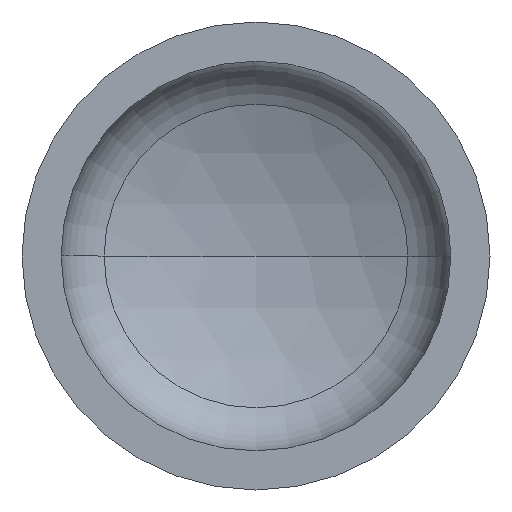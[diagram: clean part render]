
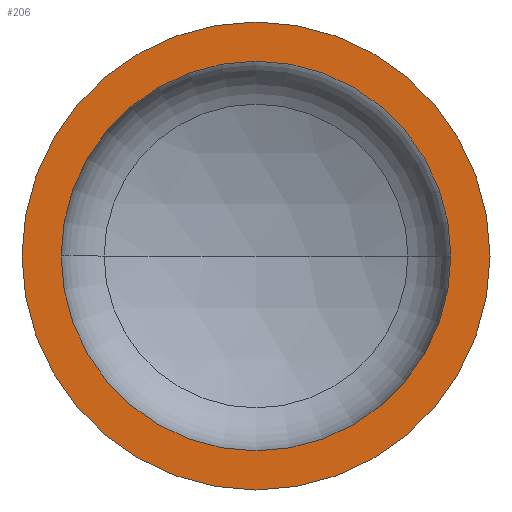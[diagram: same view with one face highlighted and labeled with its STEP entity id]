
A CAD part, front view. The second image highlights one B-rep face of the part: STEP entity #206.
In plain terms, the highlighted planar face has unit normal (0, -1, 0).
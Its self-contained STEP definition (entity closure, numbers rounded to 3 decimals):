
#18 = AXIS2_PLACEMENT_3D ( 'NONE', #102, #340, #199 ) ;
#30 = VERTEX_POINT ( 'NONE', #298 ) ;
#39 = ORIENTED_EDGE ( 'NONE', *, *, #382, .F. ) ;
#47 = AXIS2_PLACEMENT_3D ( 'NONE', #292, #296, #276 ) ;
#52 = AXIS2_PLACEMENT_3D ( 'NONE', #192, #191, #189 ) ;
#66 = EDGE_CURVE ( 'NONE', #30, #74, #267, .T. ) ;
#72 = EDGE_CURVE ( 'NONE', #133, #89, #390, .T. ) ;
#74 = VERTEX_POINT ( 'NONE', #181 ) ;
#86 = ORIENTED_EDGE ( 'NONE', *, *, #72, .F. ) ;
#89 = VERTEX_POINT ( 'NONE', #279 ) ;
#90 = ORIENTED_EDGE ( 'NONE', *, *, #66, .T. ) ;
#102 = CARTESIAN_POINT ( 'NONE',  ( -550., 0., 0. ) ) ;
#113 = EDGE_LOOP ( 'NONE', ( #147, #90 ) ) ;
#133 = VERTEX_POINT ( 'NONE', #151 ) ;
#135 = EDGE_LOOP ( 'NONE', ( #86, #39 ) ) ;
#147 = ORIENTED_EDGE ( 'NONE', *, *, #388, .T. ) ;
#151 = CARTESIAN_POINT ( 'NONE',  ( 458., 0., 0. ) ) ;
#158 = CARTESIAN_POINT ( 'NONE',  ( 0., 0., 0. ) ) ;
#181 = CARTESIAN_POINT ( 'NONE',  ( 550., 0., 0. ) ) ;
#182 = DIRECTION ( 'NONE',  ( 1., 0., 0. ) ) ;
#189 = DIRECTION ( 'NONE',  ( 1., 0., 0. ) ) ;
#191 = DIRECTION ( 'NONE',  ( 0., -1., 0. ) ) ;
#192 = CARTESIAN_POINT ( 'NONE',  ( 0., 0., 0. ) ) ;
#199 = DIRECTION ( 'NONE',  ( -1., 0., 0. ) ) ;
#204 = CIRCLE ( 'NONE', #379, 458. ) ;
#206 = ADVANCED_FACE ( 'NONE', ( #313, #308 ), #318, .F. ) ;
#228 = DIRECTION ( 'NONE',  ( 0., -1., 0. ) ) ;
#267 = CIRCLE ( 'NONE', #52, 550. ) ;
#276 = DIRECTION ( 'NONE',  ( 1., 0., 0. ) ) ;
#279 = CARTESIAN_POINT ( 'NONE',  ( -458., 0., 0. ) ) ;
#292 = CARTESIAN_POINT ( 'NONE',  ( 0., 0., 0. ) ) ;
#296 = DIRECTION ( 'NONE',  ( 0., -1., 0. ) ) ;
#298 = CARTESIAN_POINT ( 'NONE',  ( -550., 0., 0. ) ) ;
#308 = FACE_OUTER_BOUND ( 'NONE', #113, .T. ) ;
#313 = FACE_BOUND ( 'NONE', #135, .T. ) ;
#318 = PLANE ( 'NONE',  #18 ) ;
#324 = DIRECTION ( 'NONE',  ( 0., -1., 0. ) ) ;
#332 = CIRCLE ( 'NONE', #363, 550. ) ;
#340 = DIRECTION ( 'NONE',  ( 0., 1., 0. ) ) ;
#363 = AXIS2_PLACEMENT_3D ( 'NONE', #373, #228, #394 ) ;
#373 = CARTESIAN_POINT ( 'NONE',  ( 0., 0., 0. ) ) ;
#379 = AXIS2_PLACEMENT_3D ( 'NONE', #158, #324, #182 ) ;
#382 = EDGE_CURVE ( 'NONE', #89, #133, #204, .T. ) ;
#388 = EDGE_CURVE ( 'NONE', #74, #30, #332, .T. ) ;
#390 = CIRCLE ( 'NONE', #47, 458. ) ;
#394 = DIRECTION ( 'NONE',  ( 1., 0., 0. ) ) ;
